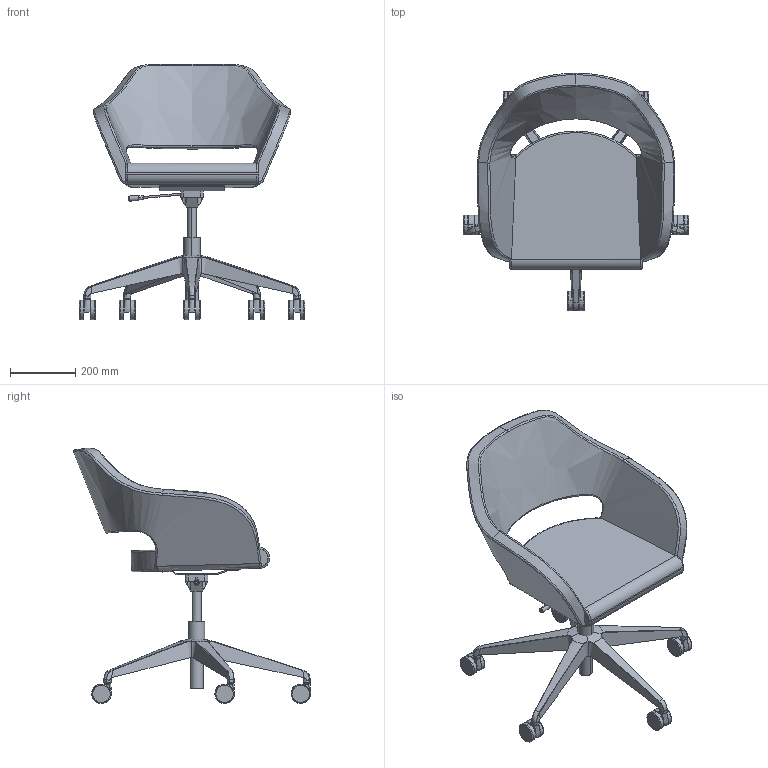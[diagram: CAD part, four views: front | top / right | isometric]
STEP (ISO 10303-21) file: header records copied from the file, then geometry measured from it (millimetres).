
FILE_DESCRIPTION(/* description */ (''),/* implementation_level */ '2;1');
FILE_NAME(/* name */ 'POLO_F~1',/* time_stamp */ '2016-06-29T12:05:25+02:00',/* author */ (''),/* organization */ (''),/* preprocessor_version */ 'ST-DEVELOPER v15',/* originating_system */ '',/* authorisation */ '');
FILE_SCHEMA (('CONFIG_CONTROL_DESIGN'));
Length unit declared in the file: millimetre
Products named in the file (1): Document
Bounding box: 694.82 x 730.18 x 785.02 mm (x, y, z)
Volume: 10383303.9 mm3; surface area: 1516104.8 mm2
Topology: 4 solids, 35 shells, 334 faces, 804 edges, 473 vertices
Faces by surface type: bspline 254, plane 80
Entity records: 19129 total; most frequent: CARTESIAN_POINT 14635, ORIENTED_EDGE 1420, EDGE_CURVE 776, VERTEX_POINT 467, B_SPLINE_CURVE_WITH_KNOTS 345, ADVANCED_FACE 334, FACE_OUTER_BOUND 334, EDGE_LOOP 334
